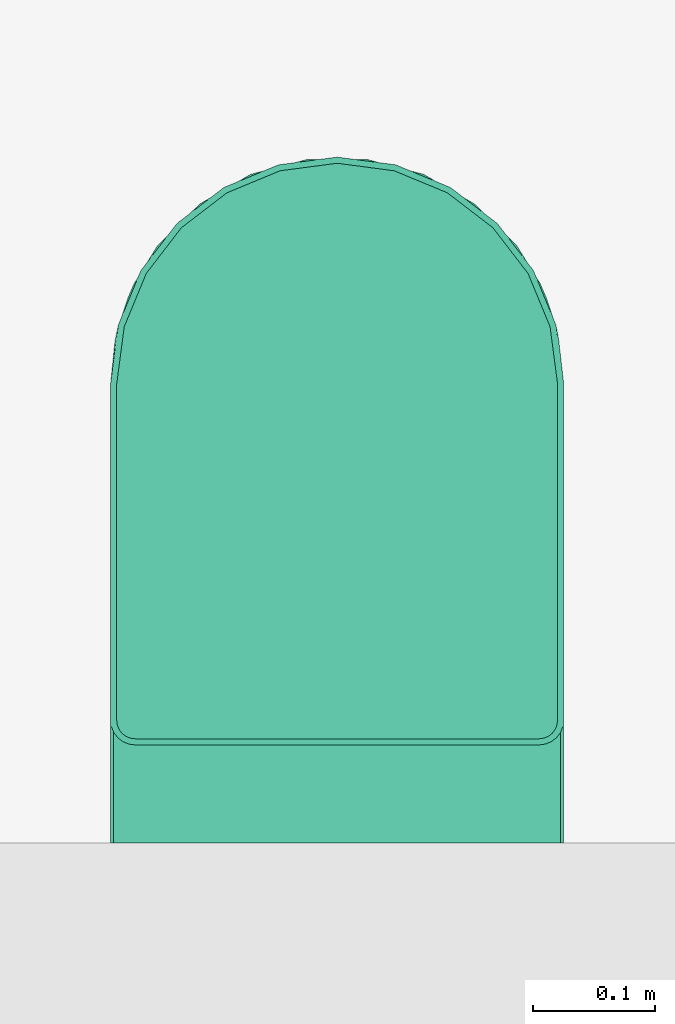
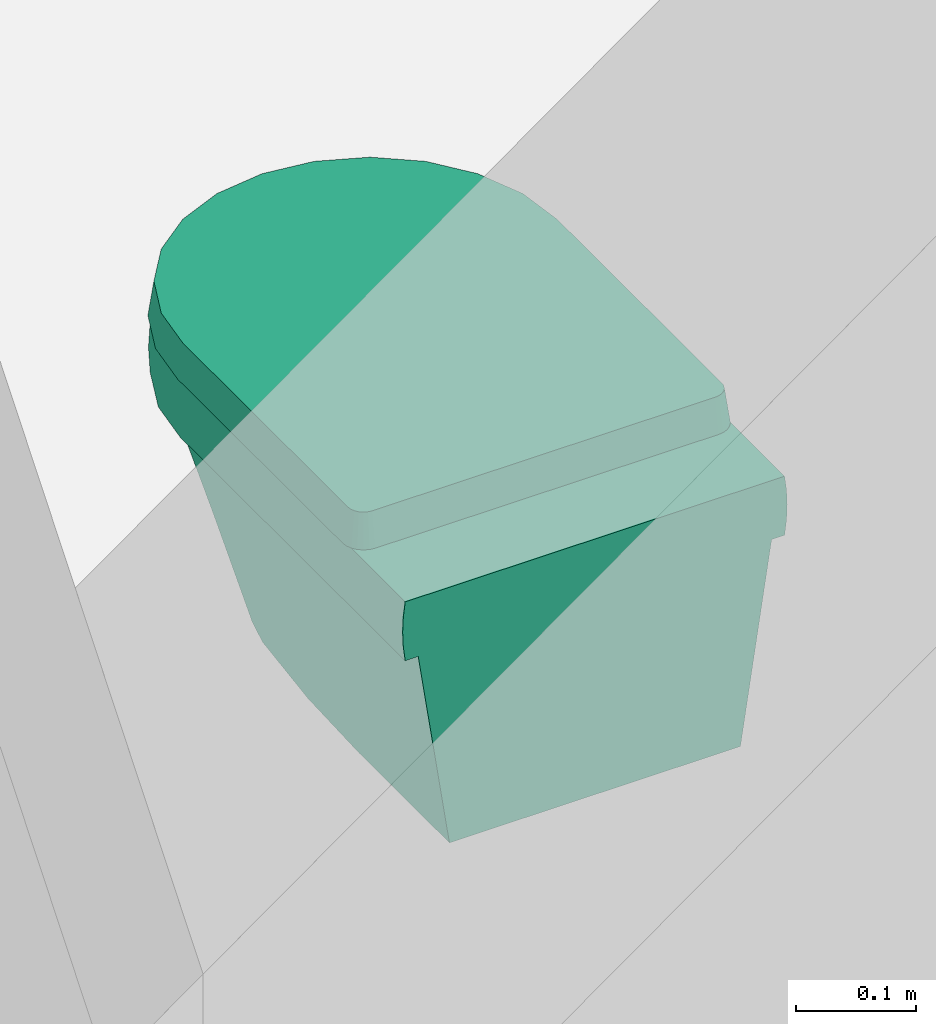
# One storey, part 27 of 57: 1 flow terminal.
"""IFC2X3 building model written with IfcOpenShell, lengths in millimetres."""

from ifc_helpers import new_model, entity, si_unit, converted_unit, direction, frame, origin, place, context, subcontext, project, spatial, faceted_brep, source, transform, mapped, material, type_object, type_shapes, element, save


model = new_model("IFC2X3")

# Units and contexts
model_context = context("Model", 3, precision=0.01, world=origin(), true_north=direction((6.123233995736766e-17, 1.0)))
plan_context = context("Plan", 3, precision=0.01, world=origin(), true_north=direction((6.123233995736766e-17, 1.0)))
body_context = subcontext(model_context, "Body", "Model", "MODEL_VIEW")
ifc_project = project(units=[si_unit("LENGTHUNIT", "METRE", prefix="MILLI"), converted_unit("PLANEANGLEUNIT", "DEGREE", entity("IfcPlaneAngleMeasure", 0.017453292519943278), si_unit("PLANEANGLEUNIT", "RADIAN"), dimensions=[0, 0, 0, 0, 0, 0, 0]), si_unit("AREAUNIT", "SQUARE_METRE")], contexts=[model_context, plan_context])

# Site, building, storey, space
site_placement = place(None, origin())
site = spatial("IfcSite", under=ifc_project, at=site_placement, Name="Default", CompositionType="ELEMENT")
building_placement = place(site_placement, origin())
building = spatial("IfcBuilding", under=site, at=building_placement, CompositionType="ELEMENT")
storey_placement = place(building_placement, frame((0.0, 0.0, 12811.000000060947)))
storey = spatial("IfcBuildingStorey", under=building, at=storey_placement, Name="5K", CompositionType="ELEMENT", Elevation=12811.000000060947)
space_placement = place(storey_placement, origin())
space = spatial("IfcSpace", under=storey, at=space_placement, Name="5-12.5", CompositionType="ELEMENT", InteriorOrExteriorSpace="INTERNAL")

# Flow terminal
ifc_material = material(Name="<Unnamed>")
distribution_element_type = type_object("IfcDistributionElementType", Name="HR_Plumbing-fixtures_Toilet_Generic_v3:Default", material=ifc_material)
shared_shape = source(origin(), body_context, "Body", "Brep", [
    faceted_brep([(185.0, 375.0, -3940.0), (185.0, 100.0, -3940.0), (184.31851652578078, 94.82361909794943, -3940.0), (182.32050807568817, 90.0, -3940.0), (179.14213562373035, 85.85786437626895, -3940.0), (175.0, 82.67949192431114, -3940.0), (170.17638090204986, 80.68148347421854, -3940.0), (165.0, 80.0, -3940.0), (-165.0, 80.0, -3940.0), (-170.17638090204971, 80.68148347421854, -3940.0), (-175.0, 82.67949192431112, -3940.0), (-179.14213562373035, 85.85786437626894, -3940.0), (-182.32050807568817, 90.0, -3940.0), (-184.31851652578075, 94.82361909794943, -3940.0), (-185.0, 100.0, -3940.0), (-185.0, 375.0, -3940.0), (-178.6962778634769, 422.8815233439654, -3940.0), (-160.21469970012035, 467.49999999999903, -3940.0), (-130.81475451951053, 505.81475451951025, -3940.0), (-92.4999999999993, 535.21469970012, -3940.0), (-47.8815233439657, 553.6962778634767, -3940.0), (0.0, 560.0, -3940.0), (47.88152334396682, 553.6962778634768, -3940.0), (92.50000000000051, 535.2146997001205, -3940.0), (130.81475451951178, 505.8147545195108, -3940.0), (160.2146997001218, 467.4999999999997, -3940.0), (178.69627786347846, 422.8815233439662, -3940.0), (165.0, 85.0, -3905.0), (168.88228567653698, 85.51111260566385, -3905.0), (172.4999999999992, 87.00961894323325, -3905.0), (175.60660171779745, 89.39339828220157, -3905.0), (177.99038105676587, 92.49999999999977, -3905.0), (179.48888739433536, 96.11771432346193, -3905.0), (180.0, 100.0, -3905.0), (180.0, 375.0, -3905.0), (173.86664873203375, 421.5874281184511, -3905.0), (155.88457268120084, 465.0, -3905.0), (127.27922061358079, 502.27922061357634, -3905.0), (90.0, 530.884572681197, -3905.0), (46.58742811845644, 548.8666487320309, -3905.0), (0.0, 555.0, -3905.0), (-46.58742811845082, 548.8666487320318, -3905.0), (-90.0, 530.8845726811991, -3905.0), (-127.27922061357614, 502.2792206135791, -3905.0), (-155.88457268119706, 465.0, -3905.0), (-173.8666487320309, 421.58742811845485, -3905.0), (-180.0, 375.0, -3905.0), (-180.0, 100.0, -3905.0), (-179.4888873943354, 96.11771432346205, -3905.0), (-177.99038105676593, 92.49999999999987, -3905.0), (-175.6066017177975, 89.39339828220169, -3905.0), (-172.49999999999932, 87.00961894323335, -3905.0), (-168.88228567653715, 85.51111260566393, -3905.0), (-165.0, 85.0, -3905.0)], [[[0, 1, 2, 3, 4, 5, 6, 7, 8, 9, 10, 11, 12, 13, 14, 15, 16, 17, 18, 19, 20, 21, 22, 23, 24, 25, 26]], [[27, 28, 29, 30, 31, 32, 33, 34, 35, 36, 37, 38, 39, 40, 41, 42, 43, 44, 45, 46, 47, 48, 49, 50, 51, 52, 53]], [[13, 48, 47, 14]], [[49, 12, 11, 50]], [[48, 13, 12, 49]], [[52, 51, 10, 9]], [[53, 52, 9, 8]], [[10, 51, 50, 11]], [[7, 27, 53, 8]], [[6, 28, 27, 7]], [[29, 5, 4, 30]], [[28, 6, 5, 29]], [[32, 31, 3, 2]], [[33, 32, 2, 1]], [[3, 31, 30, 4]], [[0, 34, 33, 1]], [[34, 0, 26, 35]], [[35, 26, 25, 36]], [[38, 37, 24, 23]], [[24, 37, 36, 25]], [[39, 38, 23, 22]], [[39, 22, 21, 40]], [[20, 41, 40, 21]], [[45, 44, 17, 16]], [[43, 18, 17, 44]], [[45, 16, 15, 46]], [[19, 42, 41, 20]], [[19, 18, 43, 42]], [[47, 46, 15, 14]]]),
    faceted_brep([(158.04963619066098, 466.24999999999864, -4000.0), (176.28146329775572, 422.2344757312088, -4000.0), (182.5000000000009, 375.0, -4000.0), (182.5000000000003, 0.0, -4000.0), (-182.49999999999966, 0.0, -4000.0), (-182.49999999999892, 375.0, -4000.0), (-176.2814632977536, 422.23447573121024, -4000.0), (-158.04963619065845, 466.25, -4000.0), (-129.04698756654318, 504.0469875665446, -4000.0), (-91.2499999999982, 533.0496361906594, -4000.0), (-47.23447573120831, 551.281463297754, -4000.0), (0.0, 557.4999999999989, -4000.0), (47.23447573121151, 551.2814632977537, -4000.0), (91.25000000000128, 533.0496361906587, -4000.0), (129.04698756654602, 504.0469875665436, -4000.0), (-176.28146329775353, 422.23447573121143, -3940.0), (-182.49999999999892, 375.0, -3940.0), (-182.49999999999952, 0.0, -3940.0), (182.50000000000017, 0.0, -3940.0), (182.50000000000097, 375.0, -3940.0), (176.2814632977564, 422.23447573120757, -3940.0), (158.04963619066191, 466.24999999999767, -3940.0), (129.04698756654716, 504.04698756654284, -3940.0), (91.25000000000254, 533.0496361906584, -3940.0), (47.23447573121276, 551.2814632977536, -3940.0), (0.0, 557.4999999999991, -3940.0), (-47.23447573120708, 551.2814632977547, -3940.0), (-91.24999999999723, 533.0496361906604, -3940.0), (-129.04698756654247, 504.0469875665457, -3940.0), (-158.0496361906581, 466.25000000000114, -3940.0), (184.3739186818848, 0.0, -3985.051993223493), (185.0, 0.0, -3970.0), (184.37391868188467, 0.0, -3954.9480067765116), (-184.37391868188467, 0.0, -3954.9480067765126), (-185.0, 0.0, -3970.0), (-184.37391868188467, 0.0, -3985.051993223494), (185.0, 375.0, -3970.0), (184.37391868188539, 375.0, -3954.9480067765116), (184.37391868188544, 375.0, -3985.051993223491), (179.22193525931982, 420.2391964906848, -3962.467496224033), (146.12425609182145, 487.1250848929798, -3987.162723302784), (112.36452390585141, 521.4362980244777, -3982.347722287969), (-24.092382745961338, 557.9998161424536, -3957.652277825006), (-70.79643453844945, 545.9177137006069, -3969.999999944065), (165.88140661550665, 456.6493815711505, -3963.605381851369), (170.61476036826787, 445.67094705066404, -3980.89777177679), (146.7703673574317, 487.6208651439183, -3969.999999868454), (112.4934291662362, 521.6042920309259, -3961.29138681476), (70.79643457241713, 545.9177136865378, -3969.9999999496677), (-170.6147602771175, 445.67094700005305, -3980.8977734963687), (-146.12425609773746, 487.12508488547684, -3987.1627233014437), (70.4847752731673, 545.1653000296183, -3987.16272333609), (24.092382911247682, 557.9998161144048, -3982.3477222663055), (-146.77036734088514, 487.62086516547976, -3969.999999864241), (-165.88140640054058, 456.6493822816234, -3963.605385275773), (24.120021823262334, 558.2097557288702, -3961.2913867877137), (-24.120022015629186, 558.20975569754, -3978.7086133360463), (180.8695297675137, 411.23491834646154, -3983.9362692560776), (-112.36452329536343, 521.4362985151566, -3957.652277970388), (-112.4934298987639, 521.6042914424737, -3978.708613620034), (-70.48477528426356, 545.1653000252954, -3987.1627233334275), (-184.3739188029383, 375.0, -3954.948008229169), (-179.2219343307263, 420.239200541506, -3962.4674984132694), (-185.0, 375.0, -3970.0000029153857), (-184.3739185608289, 375.0, -3985.0519946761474), (-181.40133300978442, 410.0856400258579, -3979.2616608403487)], [[[0, 1, 2, 3, 4, 5, 6, 7, 8, 9, 10, 11, 12, 13, 14]], [[15, 16, 17, 18, 19, 20, 21, 22, 23, 24, 25, 26, 27, 28, 29]], [[4, 3, 30, 31, 32, 18, 17, 33, 34, 35]], [[32, 31, 36, 37]], [[32, 37, 19, 18]], [[30, 3, 2, 38]], [[30, 38, 36, 31]], [[37, 39, 20]], [[40, 14, 41]], [[20, 19, 37]], [[26, 42, 43]], [[44, 45, 46]], [[47, 41, 48]], [[48, 24, 23]], [[7, 49, 50]], [[47, 22, 46]], [[51, 12, 52]], [[21, 46, 22]], [[53, 49, 54]], [[55, 52, 56]], [[48, 52, 55]], [[36, 57, 39]], [[28, 58, 53]], [[11, 10, 56]], [[57, 38, 2]], [[37, 36, 39]], [[59, 58, 43]], [[7, 6, 49]], [[14, 13, 41]], [[12, 51, 13]], [[45, 57, 1]], [[14, 40, 0]], [[45, 1, 0]], [[47, 46, 41]], [[39, 57, 45]], [[24, 48, 55]], [[56, 42, 55]], [[26, 43, 27]], [[39, 45, 44]], [[58, 28, 27]], [[9, 59, 60]], [[27, 43, 58]], [[28, 53, 29]], [[61, 16, 15]], [[11, 56, 52]], [[61, 62, 63]], [[47, 48, 23]], [[41, 51, 48]], [[15, 54, 62]], [[42, 25, 55]], [[62, 61, 15]], [[64, 63, 65]], [[56, 60, 43]], [[55, 25, 24]], [[50, 53, 59]], [[60, 10, 9]], [[47, 23, 22]], [[62, 49, 65]], [[7, 50, 8]], [[49, 62, 54]], [[64, 6, 5]], [[42, 26, 25]], [[58, 59, 53]], [[49, 6, 65]], [[44, 21, 20]], [[11, 52, 12]], [[42, 56, 43]], [[46, 45, 40]], [[59, 9, 8]], [[39, 44, 20]], [[44, 46, 21]], [[54, 29, 53]], [[29, 54, 15]], [[13, 51, 41]], [[48, 51, 52]], [[0, 40, 45]], [[46, 40, 41]], [[10, 60, 56]], [[43, 60, 59]], [[8, 50, 59]], [[53, 50, 49]], [[1, 57, 2]], [[36, 38, 57]], [[62, 65, 63]], [[64, 65, 6]], [[16, 61, 33]], [[16, 33, 17]], [[33, 61, 34]], [[61, 63, 34]], [[64, 5, 4]], [[64, 35, 63]], [[35, 64, 4]], [[63, 35, 34]]]),
    faceted_brep([(85.0, 522.224318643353, -4000.0), (43.99923766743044, 539.2073904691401, -4000.0), (0.0, 545.0, -4000.0), (-43.99923766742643, 539.2073904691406, -4000.0), (-85.0, 522.2243186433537, -4000.0), (-120.20815280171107, 495.2081528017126, -4000.0), (-147.22431864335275, 460.0, -4000.0), (-164.20739046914, 418.9992376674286, -4000.0), (-170.0, 375.0, -4000.0), (-170.0, 0.0, -4000.0), (170.0, 0.0, -4000.0), (170.0, 375.0, -4000.0), (164.2073904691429, 418.99923766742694, -4000.0), (147.224318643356, 460.0, -4000.0), (120.20815280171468, 495.20815280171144, -4000.0), (140.0, 0.0, -4200.0), (-140.0, 0.0, -4200.0), (-140.0, 150.0, -4200.0), (-138.62980634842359, 195.25787346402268, -4200.0), (-137.25961308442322, 240.51573412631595, -4200.0), (-133.15405183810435, 285.6078202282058, -4200.0), (-129.04849039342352, 330.69990850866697, -4200.0), (-121.54313718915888, 361.12229181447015, -4200.0), (-106.97640292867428, 388.86507440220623, -4200.0), (-86.1945818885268, 412.3164634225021, -4200.0), (-60.40505081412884, 430.11398627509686, -4200.0), (-31.106123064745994, 441.2236471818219, -4200.0), (0.0, 445.0, -4200.0), (31.106123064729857, 441.2236471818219, -4200.0), (60.40505081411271, 430.1139862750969, -4200.0), (86.19458188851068, 412.3164634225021, -4200.0), (106.97640292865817, 388.86507440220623, -4200.0), (121.54313718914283, 361.12229181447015, -4200.0), (129.04849039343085, 330.69990850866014, -4200.0), (133.15405231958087, 285.60781494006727, -4200.0), (137.25961308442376, 240.51573412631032, -4200.0), (138.629806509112, 195.25786815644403, -4200.0), (140.0, 150.0, -4200.0), (150.60660238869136, 229.54951791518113, -4129.289317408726), (160.30330119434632, 302.2747589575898, -4064.6446587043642), (155.52145288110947, 359.3375502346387, -4070.710688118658), (143.52703751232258, 346.36235827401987, -4129.289311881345), (155.38792293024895, 359.1931016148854, -4071.362825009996), (136.07910358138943, 407.7451780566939, -4100.000018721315), (144.4628484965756, 378.65444268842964, -4105.413468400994), (88.6637225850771, 465.93257853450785, -4100.000001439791), (116.08235687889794, 439.8543237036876, -4100.000003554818), (-146.76963007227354, 381.58655237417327, -4094.5865394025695), (-136.0791098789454, 407.7451788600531, -4100.000000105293), (-143.66056550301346, 346.5068047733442, -4128.637184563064), (-156.76351819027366, 360.6811785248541, -4064.644658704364), (55.573859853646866, 484.30716171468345, -4100.000000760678), (18.928354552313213, 493.79904274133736, -4099.999999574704), (-55.573860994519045, 484.3071615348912, -4100.00000022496), (-18.928355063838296, 493.79904230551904, -4100.000000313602), (-143.52703638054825, 346.36235704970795, -4129.289317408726), (-88.66372427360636, 465.9325779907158, -4100.000000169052), (-116.08235986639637, 439.8543221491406, -4100.000000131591), (-159.3933967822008, 295.45047586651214, -4070.7106881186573), (-150.6066032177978, 229.54952413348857, -4129.2893118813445)], [[[0, 1, 2, 3, 4, 5, 6, 7, 8, 9, 10, 11, 12, 13, 14]], [[15, 16, 17, 18, 19, 20, 21, 22, 23, 24, 25, 26, 27, 28, 29, 30, 31, 32, 33, 34, 35, 36, 37]], [[10, 15, 37, 38, 39, 11]], [[36, 35, 39, 38, 37]], [[39, 40, 11]], [[35, 40, 39]], [[34, 33, 41, 42, 40, 35]], [[13, 12, 43]], [[32, 44, 33]], [[32, 31, 43]], [[44, 12, 42]], [[45, 30, 29]], [[45, 46, 30]], [[22, 47, 48]], [[30, 46, 31]], [[47, 49, 50, 8]], [[28, 51, 29]], [[46, 43, 31]], [[43, 44, 32]], [[12, 11, 40, 42]], [[51, 45, 29]], [[14, 45, 0]], [[13, 43, 46]], [[28, 27, 52]], [[14, 46, 45]], [[45, 51, 0]], [[0, 51, 1]], [[1, 51, 52]], [[52, 51, 28]], [[52, 2, 1]], [[13, 46, 14]], [[53, 26, 25]], [[2, 54, 3]], [[22, 21, 55, 49]], [[24, 56, 25]], [[48, 23, 22]], [[5, 57, 6]], [[48, 57, 23]], [[24, 23, 57]], [[47, 7, 48]], [[8, 7, 47]], [[26, 54, 27]], [[3, 54, 53]], [[56, 53, 25]], [[2, 52, 54]], [[57, 56, 24]], [[4, 53, 56]], [[22, 49, 47]], [[5, 56, 57]], [[57, 48, 6]], [[4, 56, 5]], [[53, 54, 26]], [[3, 53, 4]], [[6, 48, 7]], [[12, 44, 43]], [[44, 42, 41, 33]], [[54, 52, 27]], [[20, 19, 50, 49, 55, 21]], [[50, 58, 8]], [[19, 58, 50]], [[18, 17, 59, 58, 19]], [[9, 8, 58, 59, 17, 16]], [[9, 16, 15, 10]]]),
])
type_shapes(distribution_element_type, [shared_shape])
flow_terminal_placement = place(space_placement, frame((7112.0, 8823.0, 4305.0)))
element("IfcFlowTerminal", 1, at=flow_terminal_placement, inside=space, type_object=distribution_element_type, material=ifc_material, Name="HR_Plumbing-fixtures_Toilet_Generic_v3:Default", ObjectType="HR_Plumbing-fixtures_Toilet_Generic_v3:Default", context=body_context, shape_type="MappedRepresentation", body=[
    mapped(shared_shape, transform((0.0, 0.0, 0.0), scale=1.0)),
])

save(model, "model.ifc")
